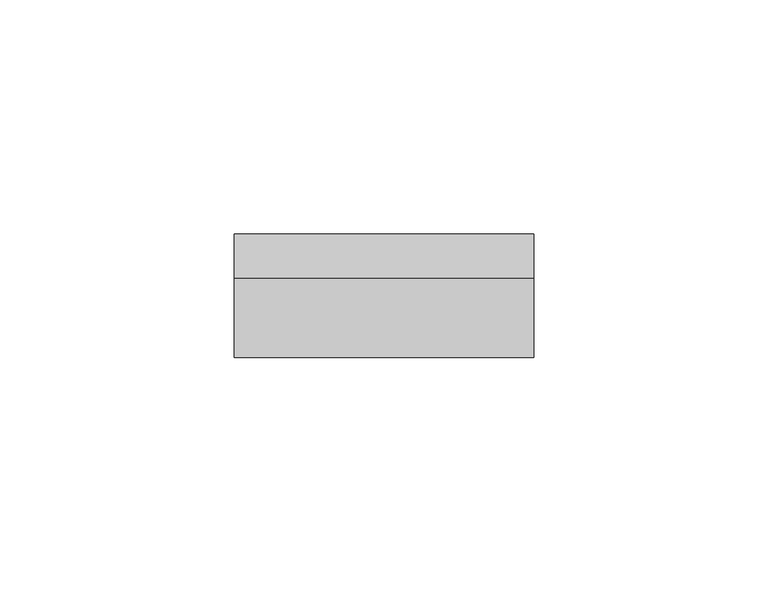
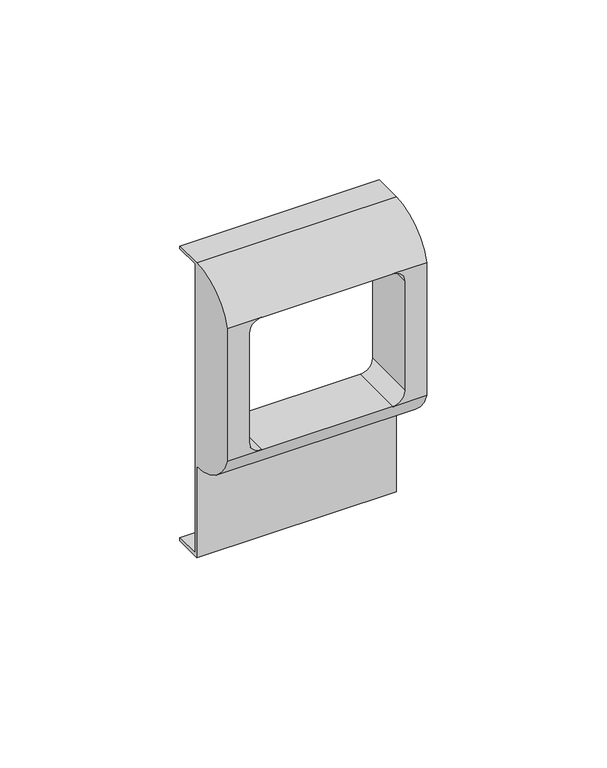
"""IFC4 building model written with IfcOpenShell, lengths in millimetres: proxy geometry, КНС_РамкаСуппорт_ILC_DKC : 45х45."""

import ifcopenshell
import ifcopenshell.guid

model = None  # the IFC model being written
_history = None  # IfcOwnerHistory: only IFC2X3 demands one
_inside = {}  # id of a spatial element -> (the spatial element, [elements in it])
_under = {}  # id of a project, library or spatial element -> (it, [spatial elements below it])
_declared = {}  # id of a project -> (the project, [libraries it declares])
_typed = {}  # id of a type object -> (the type object, [elements of that type])
_made_of = {}  # id of a material, layer set ... -> (it, [elements and type objects made of it])


def new_model(schema):
    """Start an empty IFC model of exactly this schema.

    Asked for "IFC4X3", IfcOpenShell would pick the latest addendum, in which some entities
    have other attributes; the version numbers below select the first issue.
    IFC2X3 requires an IfcOwnerHistory on every rooted entity: one is made here for all.
    """
    global model, _history
    if schema == "IFC4X3":
        model = ifcopenshell.file(schema_version=(4, 3, 0, 0))
    else:
        model = ifcopenshell.file(schema=schema)
    _inside.clear()
    _under.clear()
    _declared.clear()
    _typed.clear()
    _made_of.clear()
    _history = None
    if model.schema == "IFC2X3":
        org = make("IfcOrganization", Name="unknown")
        user = make(
            "IfcPersonAndOrganization",
            ThePerson=make("IfcPerson", FamilyName="unknown"),
            TheOrganization=org,
        )
        app = make(
            "IfcApplication",
            ApplicationDeveloper=org,
            Version="unknown",
            ApplicationFullName="unknown",
            ApplicationIdentifier="unknown",
        )
        _history = make(
            "IfcOwnerHistory",
            OwningUser=user,
            OwningApplication=app,
            ChangeAction="ADDED",
            CreationDate=0,
        )
    return model


def make(cls, **values):
    """One entity of the class cls with the attributes given. An attribute that is None is left unset."""
    return model.create_entity(
        cls, **{name: value for name, value in values.items() if value is not None}
    )


def rooted(cls, **values):
    """An entity with a GlobalId (a new one), such as an element, a storey or a relation."""
    return make(cls, GlobalId=ifcopenshell.guid.new(), OwnerHistory=_history, **values)


def si_unit(unit_type, name, prefix=None):
    """IfcSIUnit, for example si_unit("LENGTHUNIT", "METRE", prefix="MILLI")."""
    return make("IfcSIUnit", UnitType=unit_type, Prefix=prefix, Name=name)


def assignment(units):
    """IfcUnitAssignment: the units of a project."""
    return None if units is None else make("IfcUnitAssignment", Units=units)


def point(xyz):
    """IfcCartesianPoint."""
    return None if xyz is None else make("IfcCartesianPoint", Coordinates=xyz)


def direction(xyz):
    """IfcDirection."""
    return None if xyz is None else make("IfcDirection", DirectionRatios=xyz)


def frame(location, z_axis=None, x_axis=None):
    """IfcAxis2Placement3D, a coordinate frame: its origin and axes. An axis left out is left unset."""
    return make(
        "IfcAxis2Placement3D",
        Location=point(location),
        Axis=direction(z_axis),
        RefDirection=direction(x_axis),
    )


def origin():
    """The frame at (0, 0, 0) with its axes left unset."""
    return frame((0.0, 0.0, 0.0))


def place(relative_to, where):
    """IfcLocalPlacement: puts the frame where relative to a parent placement (None: the world)."""
    return make(
        "IfcLocalPlacement", PlacementRelTo=relative_to, RelativePlacement=where
    )


def context(
    kind, dimensions, precision=None, world=None, true_north=None, identifier=None
):
    """IfcGeometricRepresentationContext, for example the 3D "Model" context."""
    return make(
        "IfcGeometricRepresentationContext",
        ContextIdentifier=identifier,
        ContextType=kind,
        CoordinateSpaceDimension=dimensions,
        Precision=precision,
        WorldCoordinateSystem=world,
        TrueNorth=true_north,
    )


def project(units=None, contexts=None):
    """IfcProject with its units and contexts."""
    return rooted(
        "IfcProject",
        Name="project",
        RepresentationContexts=contexts,
        UnitsInContext=assignment(units),
    )


def spatial(cls, under=None, at=None, **own):
    """A site, building, storey or space (cls), placed at a placement, below another one or the project."""
    s = rooted(cls, ObjectPlacement=at, **own)
    if under is not None:
        _under.setdefault(under.id(), (under, []))[1].append(s)
    return s


def polyline(points):
    """IfcPolyline through the points."""
    return make("IfcPolyline", Points=[point(p) for p in points])


def circle_curve(where, radius):
    """IfcCircle in the frame where."""
    return make("IfcCircle", Position=where, Radius=radius)


def shape(context_of_items, identifier, shape_type, items):
    """IfcShapeRepresentation: the items that make up one representation, for example the "Body"."""
    return make(
        "IfcShapeRepresentation",
        ContextOfItems=context_of_items,
        RepresentationIdentifier=identifier,
        RepresentationType=shape_type,
        Items=items,
    )


def source(mapping_origin, context_of_items, identifier, shape_type, items):
    """IfcRepresentationMap: a shape defined once, which mapped items show again and again."""
    return make(
        "IfcRepresentationMap",
        MappingOrigin=mapping_origin,
        MappedRepresentation=shape(context_of_items, identifier, shape_type, items),
    )


def transform(
    local_origin,
    x_axis=None,
    y_axis=None,
    z_axis=None,
    scale=None,
    scale2=None,
    scale3=None,
    uniform=True,
):
    """IfcCartesianTransformationOperator3D, or its non-uniform kind. x_axis, y_axis, z_axis: its Axis1, 2, 3."""
    if uniform:
        return make(
            "IfcCartesianTransformationOperator3D",
            Axis1=direction(x_axis),
            Axis2=direction(y_axis),
            LocalOrigin=point(local_origin),
            Scale=scale,
            Axis3=direction(z_axis),
        )
    return make(
        "IfcCartesianTransformationOperator3DnonUniform",
        Axis1=direction(x_axis),
        Axis2=direction(y_axis),
        LocalOrigin=point(local_origin),
        Scale=scale,
        Axis3=direction(z_axis),
        Scale2=scale2,
        Scale3=scale3,
    )


def mapped(mapping_source, mapping_target):
    """IfcMappedItem: shows the shape of a source again, moved by a transform."""
    return make(
        "IfcMappedItem", MappingSource=mapping_source, MappingTarget=mapping_target
    )


def made_of(thing, what):
    """Note that an element or type object is made of a material, layer set ...; save() writes the relation."""
    if what is not None:
        _made_of.setdefault(what.id(), (what, []))[1].append(thing)
    return thing


def element(
    cls,
    number,
    at=None,
    inside=None,
    cuts=None,
    type_object=None,
    material=None,
    context=None,
    identifier="Body",
    shape_type=None,
    held_by="IfcProductDefinitionShape",
    body=None,
    shapes=None,
    **own,
):
    """One element of the class cls, such as IfcWall. Its Tag is "e" and its number.

    at: its placement. inside: the storey or other place that contains it. cuts: it is an
    opening in that element (IfcRelVoidsElement). A single representation is given by context,
    identifier, shape_type and body (its items); several are given by shapes. held_by: the class
    of the entity that holds the representations. save() writes the other relations.
    """
    e = rooted(cls, Tag="e%d" % number, ObjectPlacement=at, **own)
    if body is not None:
        shapes = [shape(context, identifier, shape_type, body)]
    if shapes is not None:
        e.Representation = make(held_by, Representations=shapes)
    if inside is not None:
        _inside.setdefault(inside.id(), (inside, []))[1].append(e)
    if cuts is not None:
        rooted(
            "IfcRelVoidsElement", RelatingBuildingElement=cuts, RelatedOpeningElement=e
        )
    if type_object is not None:
        _typed.setdefault(type_object.id(), (type_object, []))[1].append(e)
    return made_of(e, material)


def aggregate(whole, parts):
    """IfcRelAggregates: a whole, such as a stair, and the parts it consists of."""
    return rooted("IfcRelAggregates", RelatingObject=whole, RelatedObjects=parts)


def save(model, path):
    """Write the relations noted so far, then the file.

    IfcRelAggregates (storeys below a building ...), IfcRelContainedInSpatialStructure (elements
    in a storey), IfcRelDefinesByType, IfcRelAssociatesMaterial and IfcRelDeclares: one each for
    every whole, place, type object, material and project.
    """
    for whole, parts in _under.values():
        aggregate(whole, parts)
    for where, things in _inside.values():
        rooted(
            "IfcRelContainedInSpatialStructure",
            RelatedElements=things,
            RelatingStructure=where,
        )
    for kind, things in _typed.values():
        rooted("IfcRelDefinesByType", RelatedObjects=things, RelatingType=kind)
    for what, things in _made_of.values():
        rooted("IfcRelAssociatesMaterial", RelatedObjects=things, RelatingMaterial=what)
    for by, libraries in _declared.values():
        rooted("IfcRelDeclares", RelatingContext=by, RelatedDefinitions=libraries)
    model.write(path)


def plane_surface(at):
    """IfcPlane: the flat surface through the origin of the frame at, square to its z axis."""
    return make("IfcPlane", Position=at)


def cylinder_surface(at, radius):
    """IfcCylindricalSurface: all points at the distance radius from the z axis of the frame at."""
    return make("IfcCylindricalSurface", Position=at, Radius=radius)


def revolved_surface(curve, axis_point, axis_direction):
    """IfcSurfaceOfRevolution: the curve turned about the line through axis_point along axis_direction."""
    return make(
        "IfcSurfaceOfRevolution",
        SweptCurve=make("IfcArbitraryOpenProfileDef", ProfileType="CURVE", Curve=curve),
        AxisPosition=make("IfcAxis1Placement", Location=point(axis_point), Axis=direction(axis_direction)),
    )


def advanced_brep(points, edges, surfaces, faces):
    """IfcAdvancedBrep: a solid bounded by faces that lie on surfaces and meet in shared edges.

    An edge is (start, end): straight between two places in points (the first is 0);
    or (start, end, curve); or (start, end, curve, False) where it runs against its curve.
    A face is (place in surfaces, loops), or (place, loops, False) where it looks against
    its surface's normal. A loop lists edges by number (the first is 1), with a minus sign
    where the edge is run from its end to its start. The first loop is the outer one.
    """
    corners = [point(p) for p in points]
    vertices = [make("IfcVertexPoint", VertexGeometry=c) for c in corners]
    made = []
    for start, end, *more in edges:
        made.append(
            make(
                "IfcEdgeCurve",
                EdgeStart=vertices[start],
                EdgeEnd=vertices[end],
                EdgeGeometry=more[0] if more else make("IfcPolyline", Points=[corners[start], corners[end]]),
                SameSense=more[1] if len(more) > 1 else True,
            )
        )
    hull = []
    for where, loops, *sense in faces:
        bounds = []
        for j, loop in enumerate(loops):
            ring = [make("IfcOrientedEdge", EdgeElement=made[abs(k) - 1], Orientation=k > 0) for k in loop]
            bounds.append(
                make(
                    "IfcFaceOuterBound" if j == 0 else "IfcFaceBound",
                    Bound=make("IfcEdgeLoop", EdgeList=ring),
                    Orientation=True,
                )
            )
        hull.append(make("IfcAdvancedFace", Bounds=bounds, FaceSurface=surfaces[where], SameSense=sense[0] if sense else True))
    return make("IfcAdvancedBrep", Outer=make("IfcClosedShell", CfsFaces=hull))


def electrical_fixtures_80402f6c(model_context):
    return source(origin(), model_context, "Body", "AdvancedBrep", [
        advanced_brep(
        [(32.0, 8.4, 49.0), (32.0, 8.4, 50.0), (32.0, -1.0, 50.0), (32.0, -18.0, 38.0), (32.0, -18.0, -7.0), (32.0, -1.0, -19.0), (32.0, -1.0, -50.0), (32.0, 8.4, -50.0), (32.0, 8.4, -49.0), (32.0, 0.0, -49.0), (32.0, 0.0, 49.0), (-32.0, 8.4, 49.0), (-32.0, 0.0, 49.0), (-32.0, 0.0, -49.0), (-32.0, 8.4, -49.0), (-32.0, 8.4, -50.0), (-32.0, -1.0, -50.0), (-32.0, -1.0, -19.0), (-32.0, -18.0, -7.0), (-32.0, -18.0, 38.0), (-32.0, -1.0, 50.0), (-32.0, 8.4, 50.0), (20.9686648, -18.0, 38.0), (25.0, -18.0, 33.9686648), (25.0, -18.0, -2.9686648), (20.9686648, -18.0, -7.0), (-20.9686648, -18.0, -7.0), (-25.0, -18.0, -2.9686648), (-25.0, -18.0, 33.9686648), (-20.9686648, -18.0, 38.0), (20.9686648, 0.0, 38.0), (-20.9686648, 0.0, 38.0), (-25.0, 0.0, 33.9686648), (-25.0, 0.0, -2.9686648), (-20.9686648, 0.0, -7.0), (20.9686648, 0.0, -7.0), (25.0, 0.0, -2.9686648), (25.0, 0.0, 33.9686648)],
        [
            (0, 1),
            (1, 2),
            (2, 3, circle_curve(frame((32.0, -1.0, 31.9583333), z_axis=(1.0, 0.0, 0.0), x_axis=(0.0, 1.0, 0.0)), 18.0416667)),
            (3, 4),
            (4, 5, circle_curve(frame((32.0, -1.0, -0.9583333), z_axis=(1.0, 0.0, 0.0), x_axis=(0.0, 1.0, 0.0)), 18.0416667)),
            (5, 6),
            (6, 7),
            (7, 8),
            (8, 9),
            (9, 10),
            (10, 0),
            (11, 12),
            (12, 13),
            (13, 14),
            (14, 15),
            (15, 16),
            (16, 17),
            (17, 18, circle_curve(frame((-32.0, -1.0, -0.9583333), z_axis=(-1.0, 0.0, 0.0), x_axis=(0.0, 1.0, 0.0)), 18.0416667)),
            (18, 19),
            (19, 20, circle_curve(frame((-32.0, -1.0, 31.9583333), z_axis=(-1.0, 0.0, 0.0), x_axis=(0.0, 1.0, 0.0)), 18.0416667)),
            (20, 21),
            (21, 11),
            (0, 11),
            (21, 1),
            (20, 2),
            (3, 22),
            (22, 23, circle_curve(frame((20.9686648, -18.0, 33.9686648), z_axis=(0.0, 1.0, 0.0), x_axis=(1.0, 0.0, 0.0)), 4.0313352)),
            (23, 24),
            (24, 25, circle_curve(frame((20.9686648, -18.0, -2.9686648), z_axis=(0.0, 1.0, 0.0), x_axis=(1.0, 0.0, 0.0)), 4.0313352)),
            (25, 4),
            (18, 26),
            (26, 27, circle_curve(frame((-20.9686648, -18.0, -2.9686648), z_axis=(0.0, 1.0, 0.0), x_axis=(1.0, 0.0, 0.0)), 4.0313352)),
            (27, 28),
            (28, 29, circle_curve(frame((-20.9686648, -18.0, 33.9686648), z_axis=(0.0, 1.0, 0.0), x_axis=(1.0, 0.0, 0.0)), 4.0313352)),
            (29, 19),
            (5, 17),
            (16, 6),
            (15, 7),
            (14, 8),
            (13, 9),
            (12, 10),
            (30, 31),
            (31, 32, circle_curve(frame((-20.9686648, 0.0, 33.9686648), z_axis=(0.0, -1.0, 0.0), x_axis=(1.0, 0.0, 0.0)), 4.0313352)),
            (32, 33),
            (33, 34, circle_curve(frame((-20.9686648, 0.0, -2.9686648), z_axis=(0.0, -1.0, 0.0), x_axis=(1.0, 0.0, 0.0)), 4.0313352)),
            (34, 35),
            (35, 36, circle_curve(frame((20.9686648, 0.0, -2.9686648), z_axis=(0.0, -1.0, 0.0), x_axis=(1.0, 0.0, 0.0)), 4.0313352)),
            (36, 37),
            (37, 30, circle_curve(frame((20.9686648, 0.0, 33.9686648), z_axis=(0.0, -1.0, 0.0), x_axis=(1.0, 0.0, 0.0)), 4.0313352)),
            (29, 22),
            (25, 26),
            (29, 31),
            (30, 22),
            (28, 32),
            (27, 33),
            (26, 34),
            (25, 35),
            (24, 36),
            (23, 37),
        ],
        [
            plane_surface(frame((32.0, 8.4, 50.0), z_axis=(1.0, 0.0, 0.0), x_axis=(0.0, 0.0, 1.0))),
            plane_surface(frame((-32.0, 8.4, 50.0), z_axis=(-1.0, 0.0, 0.0), x_axis=(0.0, 0.0, -1.0))),
            plane_surface(frame((32.0, 8.4, 49.0), z_axis=(0.0, 1.0, 0.0), x_axis=(-1.0, 0.0, 0.0))),
            plane_surface(frame((32.0, 8.4, 50.0), z_axis=(0.0, 0.0, 1.0), x_axis=(-1.0, 0.0, 0.0))),
            plane_surface(frame((32.0, -18.0, 38.0), z_axis=(0.0, -1.0, 0.0), x_axis=(-1.0, 0.0, 0.0))),
            plane_surface(frame((32.0, -1.0, -19.0), z_axis=(0.0, -1.0, 0.0), x_axis=(-1.0, 0.0, 0.0))),
            plane_surface(frame((32.0, -1.0, -50.0), z_axis=(0.0, 0.0, -1.0), x_axis=(-1.0, 0.0, 0.0))),
            plane_surface(frame((32.0, 8.4, -50.0), z_axis=(0.0, 1.0, 0.0), x_axis=(-1.0, 0.0, 0.0))),
            plane_surface(frame((32.0, 8.4, -49.0), z_axis=(0.0, 0.0, 1.0), x_axis=(-1.0, 0.0, 0.0))),
            plane_surface(frame((32.0, 0.0, -49.0), z_axis=(0.0, 1.0, 0.0), x_axis=(-1.0, 0.0, 0.0))),
            plane_surface(frame((32.0, 0.0, 49.0), z_axis=(0.0, 0.0, -1.0), x_axis=(-1.0, 0.0, 0.0))),
            cylinder_surface(frame((-32.0, -1.0, 31.9583333), z_axis=(1.0, 0.0, 0.0), x_axis=(0.0, 1.0, 0.0)), 18.0416667),
            cylinder_surface(frame((-32.0, -1.0, -0.9583333), z_axis=(1.0, 0.0, 0.0), x_axis=(0.0, 1.0, 0.0)), 18.0416667),
            plane_surface(frame((20.9686648, -18.0, 38.0), z_axis=(0.0, 0.0, -1.0), x_axis=(0.0, 1.0, 0.0))),
            revolved_surface(polyline([(-16.937329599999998, -18.0, 33.9686648), (-16.937329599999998, 0.0, 33.9686648)]), (-20.9686648, 0.0, 33.9686648), (0.0, -1.0, 0.0)),
            plane_surface(frame((-25.0, -18.0, 33.9686648), z_axis=(1.0, 0.0, 0.0), x_axis=(0.0, 1.0, 0.0))),
            revolved_surface(polyline([(-16.937329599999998, -18.0, -2.9686648), (-16.937329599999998, 0.0, -2.9686648)]), (-20.9686648, 0.0, -2.9686648), (0.0, -1.0, 0.0)),
            plane_surface(frame((-20.9686648, -18.0, -7.0), z_axis=(0.0, 0.0, 1.0), x_axis=(0.0, 1.0, 0.0))),
            revolved_surface(polyline([(25.0, -18.0, -2.9686648), (25.0, 0.0, -2.9686648)]), (20.9686648, 0.0, -2.9686648), (0.0, -1.0, 0.0)),
            plane_surface(frame((25.0, -18.0, -2.9686648), z_axis=(-1.0, 0.0, 0.0), x_axis=(0.0, 1.0, 0.0))),
            revolved_surface(polyline([(25.0, -18.0, 33.9686648), (25.0, 0.0, 33.9686648)]), (20.9686648, 0.0, 33.9686648), (0.0, -1.0, 0.0)),
        ],
        [
            (0, [[1, 2, 3, 4, 5, 6, 7, 8, 9, 10, 11]]),
            (1, [[12, 13, 14, 15, 16, 17, 18, 19, 20, 21, 22]]),
            (2, [[-1, 23, -22, 24]]),
            (3, [[-2, -24, -21, 25]]),
            (4, [[-4, 26, 27, 28, 29, 30]]),
            (4, [[-19, 31, 32, 33, 34, 35]]),
            (5, [[-6, 36, -17, 37]]),
            (6, [[-7, -37, -16, 38]]),
            (7, [[-8, -38, -15, 39]]),
            (8, [[-9, -39, -14, 40]]),
            (9, [[-10, -40, -13, 41], [42, 43, 44, 45, 46, 47, 48, 49]]),
            (10, [[-11, -41, -12, -23]]),
            (11, [[-3, -25, -20, -35, 50, -26]]),
            (12, [[-5, -30, 51, -31, -18, -36]]),
            (13, [[52, -42, 53, -50]]),
            (14, [[-52, -34, 54, -43]]),
            (15, [[-54, -33, 55, -44]]),
            (16, [[-55, -32, 56, -45]]),
            (17, [[-56, -51, 57, -46]]),
            (18, [[-57, -29, 58, -47]]),
            (19, [[-58, -28, 59, -48]]),
            (20, [[-53, -49, -59, -27]]),
        ],
    ),
    ])


if __name__ == "__main__":
    model = new_model("IFC4")
    model_context = context("Model", 3, world=origin())
    ifc_project = project(units=[si_unit("LENGTHUNIT", "METRE", prefix="MILLI")], contexts=[model_context])
    site = spatial("IfcSite", under=ifc_project)
    building = spatial("IfcBuilding", under=site)
    placement = place(None, origin())
    electrical_fixtures_shape = electrical_fixtures_80402f6c(model_context)
    element("IfcBuildingElementProxy", 1, Name="КНС_РамкаСуппорт_ILC_DKC : 45х45", ObjectType="КНС_РамкаСуппорт_ILC_DKC : 45х45", at=placement, inside=building, context=model_context, shape_type="MappedRepresentation", body=[
        mapped(electrical_fixtures_shape, transform((0.0, 0.0, 0.0), x_axis=(1.0, 0.0, 0.0), y_axis=(0.0, 1.0, 0.0), z_axis=(0.0, 0.0, 1.0))),
    ])
    save(model, "model.ifc")
